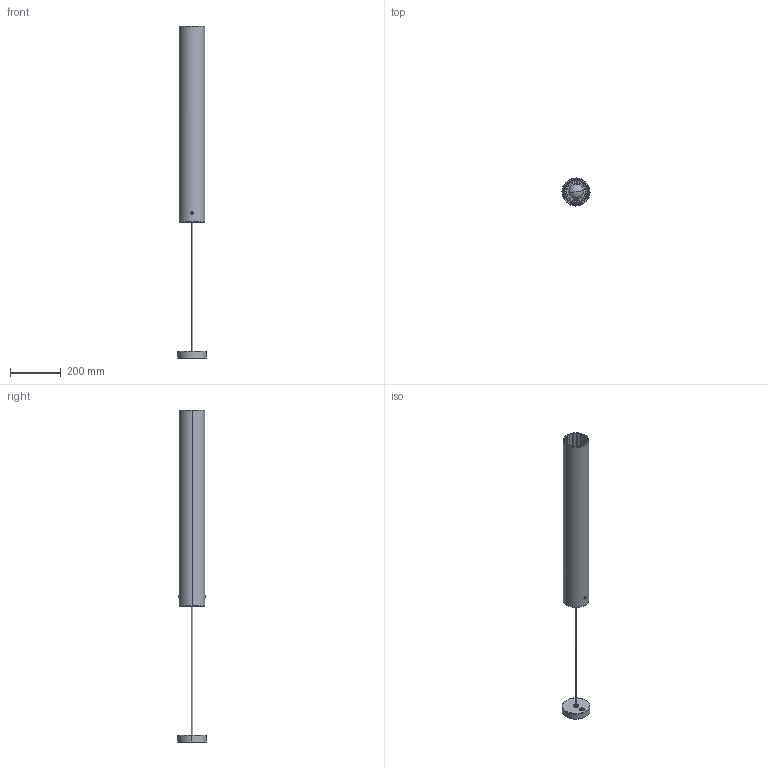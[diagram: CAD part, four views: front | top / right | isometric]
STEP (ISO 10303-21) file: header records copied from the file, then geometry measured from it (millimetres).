
FILE_DESCRIPTION (( 'STEP AP214' ), '1' );
FILE_NAME ('3D_ILIUM_HALO_MAXI.STEP', '2018-02-23T15:32:16', ( 'Utente' ), ( '' ), 'SwSTEP 2.0', 'SolidWorks 2016', '' );
FILE_SCHEMA (( 'AUTOMOTIVE_DESIGN' ));
Length unit declared in the file: millimetre
Products named in the file (9): 052COM700110-2^3D_ILIUM_HALO_MAXI; _U3-1^3D_ILIUM_HALO_MAXI; CAVO-1^3D_ILIUM_HALO_MAXI; 061ILI700400-1^3D_ILIUM_HALO_MAXI; 051ILI700200-1^3D_ILIUM_HALO_MAXI; 052ILI701100-1^3D_ILIUM_HALO_MAXI; ptl-camicia-filettata-E27-1^3D_ILIUM_HALO_MAXI; Group1^3D_ILIUM_HALO_MAXI; 3D_ILIUM_HALO_MAXI
Assembly tree (8 placements, depth 2):
  3D_ILIUM_HALO_MAXI
    Group1^3D_ILIUM_HALO_MAXI
    ptl-camicia-filettata-E27-1^3D_ILIUM_HALO_MAXI
    052ILI701100-1^3D_ILIUM_HALO_MAXI
    051ILI700200-1^3D_ILIUM_HALO_MAXI
    061ILI700400-1^3D_ILIUM_HALO_MAXI
    CAVO-1^3D_ILIUM_HALO_MAXI
    _U3-1^3D_ILIUM_HALO_MAXI
    052COM700110-2^3D_ILIUM_HALO_MAXI
Bounding box: 109.97 x 109.97 x 1303.55 mm (x, y, z)
Volume: 1755916.4 mm3; surface area: 932571.1 mm2
Topology: 9 solids, 9 shells, 227 faces, 537 edges, 332 vertices
Faces by surface type: cylinder 116, plane 37, torus 32, cone 28, bspline 14
Entity records: 12077 total; most frequent: CARTESIAN_POINT 6297, DIRECTION 1200, ORIENTED_EDGE 1070, EDGE_CURVE 535, AXIS2_PLACEMENT_3D 518, VERTEX_POINT 332, CIRCLE 294, EDGE_LOOP 259
